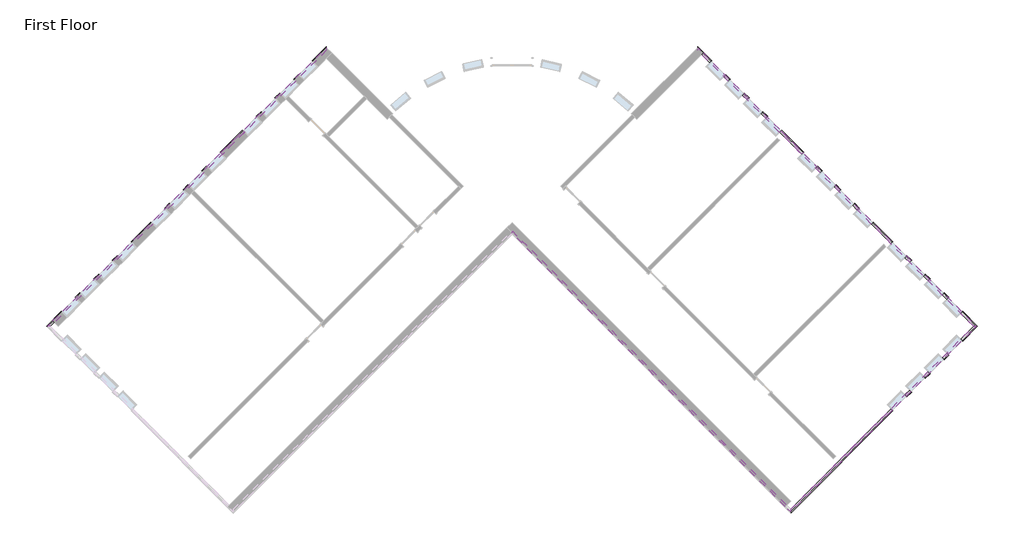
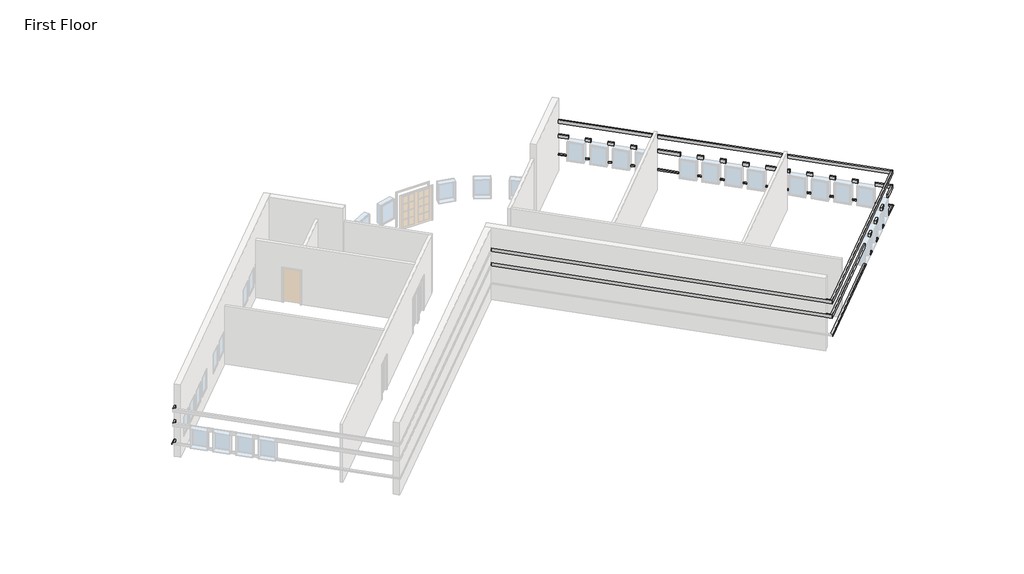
# One storey, part 3 of 3: 11 proxies.
"""IFC4 building model written with IfcOpenShell, lengths in millimetres."""

import ifcopenshell
import ifcopenshell.guid

model = None  # the IFC model being written
_history = None  # IfcOwnerHistory: only IFC2X3 demands one
_inside = {}  # id of a spatial element -> (the spatial element, [elements in it])
_under = {}  # id of a project, library or spatial element -> (it, [spatial elements below it])
_declared = {}  # id of a project -> (the project, [libraries it declares])
_typed = {}  # id of a type object -> (the type object, [elements of that type])
_made_of = {}  # id of a material, layer set ... -> (it, [elements and type objects made of it])


def new_model(schema):
    """Start an empty IFC model of exactly this schema.

    Asked for "IFC4X3", IfcOpenShell would pick the latest addendum, in which some entities
    have other attributes; the version numbers below select the first issue.
    IFC2X3 requires an IfcOwnerHistory on every rooted entity: one is made here for all.
    """
    global model, _history
    if schema == "IFC4X3":
        model = ifcopenshell.file(schema_version=(4, 3, 0, 0))
    else:
        model = ifcopenshell.file(schema=schema)
    _inside.clear()
    _under.clear()
    _declared.clear()
    _typed.clear()
    _made_of.clear()
    _history = None
    if model.schema == "IFC2X3":
        org = make("IfcOrganization", Name="unknown")
        user = make(
            "IfcPersonAndOrganization",
            ThePerson=make("IfcPerson", FamilyName="unknown"),
            TheOrganization=org,
        )
        app = make(
            "IfcApplication",
            ApplicationDeveloper=org,
            Version="unknown",
            ApplicationFullName="unknown",
            ApplicationIdentifier="unknown",
        )
        _history = make(
            "IfcOwnerHistory",
            OwningUser=user,
            OwningApplication=app,
            ChangeAction="ADDED",
            CreationDate=0,
        )
    return model


def make(cls, **values):
    """One entity of the class cls with the attributes given. An attribute that is None is left unset."""
    return model.create_entity(
        cls, **{name: value for name, value in values.items() if value is not None}
    )


def rooted(cls, **values):
    """An entity with a GlobalId (a new one), such as an element, a storey or a relation."""
    return make(cls, GlobalId=ifcopenshell.guid.new(), OwnerHistory=_history, **values)


def si_unit(unit_type, name, prefix=None):
    """IfcSIUnit, for example si_unit("LENGTHUNIT", "METRE", prefix="MILLI")."""
    return make("IfcSIUnit", UnitType=unit_type, Prefix=prefix, Name=name)


def assignment(units):
    """IfcUnitAssignment: the units of a project."""
    return None if units is None else make("IfcUnitAssignment", Units=units)


def point(xyz):
    """IfcCartesianPoint."""
    return None if xyz is None else make("IfcCartesianPoint", Coordinates=xyz)


def direction(xyz):
    """IfcDirection."""
    return None if xyz is None else make("IfcDirection", DirectionRatios=xyz)


def frame(location, z_axis=None, x_axis=None):
    """IfcAxis2Placement3D, a coordinate frame: its origin and axes. An axis left out is left unset."""
    return make(
        "IfcAxis2Placement3D",
        Location=point(location),
        Axis=direction(z_axis),
        RefDirection=direction(x_axis),
    )


def origin():
    """The frame at (0, 0, 0) with its axes left unset."""
    return frame((0.0, 0.0, 0.0))


def place(relative_to, where):
    """IfcLocalPlacement: puts the frame where relative to a parent placement (None: the world)."""
    return make(
        "IfcLocalPlacement", PlacementRelTo=relative_to, RelativePlacement=where
    )


def context(
    kind, dimensions, precision=None, world=None, true_north=None, identifier=None
):
    """IfcGeometricRepresentationContext, for example the 3D "Model" context."""
    return make(
        "IfcGeometricRepresentationContext",
        ContextIdentifier=identifier,
        ContextType=kind,
        CoordinateSpaceDimension=dimensions,
        Precision=precision,
        WorldCoordinateSystem=world,
        TrueNorth=true_north,
    )


def project(units=None, contexts=None):
    """IfcProject with its units and contexts."""
    return rooted(
        "IfcProject",
        Name="project",
        RepresentationContexts=contexts,
        UnitsInContext=assignment(units),
    )


def spatial(cls, under=None, at=None, **own):
    """A site, building, storey or space (cls), placed at a placement, below another one or the project."""
    s = rooted(cls, ObjectPlacement=at, **own)
    if under is not None:
        _under.setdefault(under.id(), (under, []))[1].append(s)
    return s


def faces_of(points, faces, orient=None, outer=None):
    """IfcFace entities. A face is a list of loops; a loop is a list of indices into points, from 0.

    orient and outer hold one flag for each loop. By default every Orientation is true, the
    first loop of a face is its IfcFaceOuterBound and the others are IfcFaceBound.
    """
    made = []
    for i, loops in enumerate(faces):
        bounds = []
        for j, loop in enumerate(loops):
            is_outer = j == 0 if outer is None else outer[i][j]
            bounds.append(
                make(
                    "IfcFaceOuterBound" if is_outer else "IfcFaceBound",
                    Bound=make("IfcPolyLoop", Polygon=[points[k] for k in loop]),
                    Orientation=True if orient is None else orient[i][j],
                )
            )
        made.append(make("IfcFace", Bounds=bounds))
    return made


def faceted_brep(points, faces, orient=None, outer=None, voids=None):
    """IfcFacetedBrep: a solid bounded by flat faces; with voids (closed shells), ...WithVoids."""
    shared = [point(p) for p in points]
    hull = make("IfcClosedShell", CfsFaces=faces_of(shared, faces, orient, outer))
    if voids is None:
        return make("IfcFacetedBrep", Outer=hull)
    return make(
        "IfcFacetedBrepWithVoids",
        Outer=hull,
        Voids=[
            make(cls, CfsFaces=faces_of(shared, fs, o, b)) for cls, fs, o, b in voids
        ],
    )


def shape(context_of_items, identifier, shape_type, items):
    """IfcShapeRepresentation: the items that make up one representation, for example the "Body"."""
    return make(
        "IfcShapeRepresentation",
        ContextOfItems=context_of_items,
        RepresentationIdentifier=identifier,
        RepresentationType=shape_type,
        Items=items,
    )


def made_of(thing, what):
    """Note that an element or type object is made of a material, layer set ...; save() writes the relation."""
    if what is not None:
        _made_of.setdefault(what.id(), (what, []))[1].append(thing)
    return thing


def element(
    cls,
    number,
    at=None,
    inside=None,
    cuts=None,
    type_object=None,
    material=None,
    context=None,
    identifier="Body",
    shape_type=None,
    held_by="IfcProductDefinitionShape",
    body=None,
    shapes=None,
    **own,
):
    """One element of the class cls, such as IfcWall. Its Tag is "e" and its number.

    at: its placement. inside: the storey or other place that contains it. cuts: it is an
    opening in that element (IfcRelVoidsElement). A single representation is given by context,
    identifier, shape_type and body (its items); several are given by shapes. held_by: the class
    of the entity that holds the representations. save() writes the other relations.
    """
    e = rooted(cls, Tag="e%d" % number, ObjectPlacement=at, **own)
    if body is not None:
        shapes = [shape(context, identifier, shape_type, body)]
    if shapes is not None:
        e.Representation = make(held_by, Representations=shapes)
    if inside is not None:
        _inside.setdefault(inside.id(), (inside, []))[1].append(e)
    if cuts is not None:
        rooted(
            "IfcRelVoidsElement", RelatingBuildingElement=cuts, RelatedOpeningElement=e
        )
    if type_object is not None:
        _typed.setdefault(type_object.id(), (type_object, []))[1].append(e)
    return made_of(e, material)


def aggregate(whole, parts):
    """IfcRelAggregates: a whole, such as a stair, and the parts it consists of."""
    return rooted("IfcRelAggregates", RelatingObject=whole, RelatedObjects=parts)


def save(model, path):
    """Write the relations noted so far, then the file.

    IfcRelAggregates (storeys below a building ...), IfcRelContainedInSpatialStructure (elements
    in a storey), IfcRelDefinesByType, IfcRelAssociatesMaterial and IfcRelDeclares: one each for
    every whole, place, type object, material and project.
    """
    for whole, parts in _under.values():
        aggregate(whole, parts)
    for where, things in _inside.values():
        rooted(
            "IfcRelContainedInSpatialStructure",
            RelatedElements=things,
            RelatingStructure=where,
        )
    for kind, things in _typed.values():
        rooted("IfcRelDefinesByType", RelatedObjects=things, RelatingType=kind)
    for what, things in _made_of.values():
        rooted("IfcRelAssociatesMaterial", RelatedObjects=things, RelatingMaterial=what)
    for by, libraries in _declared.values():
        rooted("IfcRelDeclares", RelatingContext=by, RelatedDefinitions=libraries)
    model.write(path)


model = new_model("IFC4")

# Units and contexts
model_context = context("Model", 3, world=origin())
ifc_project = project(units=[si_unit("LENGTHUNIT", "METRE", prefix="MILLI")], contexts=[model_context])

# Site, building, storey
site = spatial("IfcSite", under=ifc_project)
building = spatial("IfcBuilding", under=site)
storey = spatial("IfcBuildingStorey", under=building, Name="First Floor", Elevation=0.0)

# Proxies
placement = place(None, origin())
element("IfcBuildingElementProxy", 1, Name="Wall Sweeps", at=placement, inside=storey, context=model_context, shape_type="Brep", body=[
    faceted_brep([(5753.0175119, 11443.3655905, 1085.85), (5753.0175119, 11573.5793042, 1085.85), (5753.0175119, 11622.9707129, 1041.4), (5753.0175119, 11622.9707129, 1016.0), (5753.0175119, 11443.3655905, 1016.0), (6317.415551, 10878.9675514, 1085.85), (6317.415551, 10878.9675514, 1016.0), (6382.5224079, 10944.0744083, 1016.0), (6407.2181122, 10968.7701126, 1016.0), (6407.2181122, 10968.7701126, 1041.4), (6382.5224079, 10944.0744083, 1085.85)], [[[0, 1, 2, 3, 4]], [[5, 6, 7, 8, 9, 10]], [[1, 0, 5, 10]], [[2, 1, 10, 9]], [[3, 2, 9, 8]], [[4, 3, 8, 7, 6]], [[0, 4, 6, 5]]]),
    faceted_brep([(6963.9939917, 10232.3891107, 1085.85), (7029.1008486, 10297.4959676, 1085.85), (7053.7965529, 10322.1916719, 1041.4), (7053.7965529, 10322.1916719, 1016.0), (7029.1008486, 10297.4959676, 1016.0), (6963.9939917, 10232.3891107, 1016.0), (7179.5201386, 10016.8629638, 1085.85), (7179.5201386, 10016.8629638, 1016.0), (7244.6269955, 10081.9698207, 1016.0), (7269.3226998, 10106.665525, 1016.0), (7269.3226998, 10106.665525, 1041.4), (7244.6269955, 10081.9698207, 1085.85)], [[[0, 1, 2, 3, 4, 5]], [[6, 7, 8, 9, 10, 11]], [[1, 0, 6, 11]], [[2, 1, 11, 10]], [[3, 2, 10, 9]], [[5, 4, 3, 9, 8, 7]], [[0, 5, 7, 6]]]),
    faceted_brep([(7826.0985793, 9370.2845231, 1085.85), (7891.2054362, 9435.39138, 1085.85), (7915.9011405, 9460.0870843, 1041.4), (7915.9011405, 9460.0870843, 1016.0), (7891.2054362, 9435.39138, 1016.0), (7826.0985793, 9370.2845231, 1016.0), (8041.6247262, 9154.7583762, 1085.85), (8041.6247262, 9154.7583762, 1016.0), (8106.7315831, 9219.8652331, 1016.0), (8131.4272874, 9244.5609374, 1016.0), (8131.4272874, 9244.5609374, 1041.4), (8106.7315831, 9219.8652331, 1085.85)], [[[0, 1, 2, 3, 4, 5]], [[6, 7, 8, 9, 10, 11]], [[1, 0, 6, 11]], [[2, 1, 11, 10]], [[3, 2, 10, 9]], [[5, 4, 3, 9, 8, 7]], [[0, 5, 7, 6]]]),
    faceted_brep([(8688.2031669, 8508.1799355, 1085.85), (8753.3100238, 8573.2867923, 1085.85), (8778.0057282, 8597.9824967, 1041.4), (8778.0057282, 8597.9824967, 1016.0), (8753.3100238, 8573.2867923, 1016.0), (8688.2031669, 8508.1799355, 1016.0), (8903.7293139, 8292.6537886, 1085.85), (8903.7293139, 8292.6537886, 1016.0), (8968.8361707, 8357.7606454, 1016.0), (8993.5318751, 8382.4563498, 1016.0), (8993.5318751, 8382.4563498, 1041.4), (8968.8361707, 8357.7606454, 1085.85)], [[[0, 1, 2, 3, 4, 5]], [[6, 7, 8, 9, 10, 11]], [[1, 0, 6, 11]], [[2, 1, 11, 10]], [[3, 2, 10, 9]], [[5, 4, 3, 9, 8, 7]], [[0, 5, 7, 6]]]),
    faceted_brep([(9550.3077546, 7646.0753478, 1085.85), (9615.4146114, 7711.1822047, 1085.85), (9640.1103158, 7735.877909, 1041.4), (9640.1103158, 7735.877909, 1016.0), (9615.4146114, 7711.1822047, 1016.0), (9550.3077546, 7646.0753478, 1016.0), (10574.7639411, 6621.6191613, 1085.85), (10574.7639411, 6621.6191613, 1016.0), (10639.870798, 6686.7260182, 1016.0), (10664.5665023, 6711.4217225, 1016.0), (10664.5665023, 6711.4217225, 1041.4), (10639.870798, 6686.7260182, 1085.85)], [[[0, 1, 2, 3, 4, 5]], [[6, 7, 8, 9, 10, 11]], [[1, 0, 6, 11]], [[2, 1, 11, 10]], [[3, 2, 10, 9]], [[5, 4, 3, 9, 8, 7]], [[0, 5, 7, 6]]]),
    faceted_brep([(11221.3423818, 5975.0407206, 1085.85), (11286.4492387, 6040.1475775, 1085.85), (11311.144943, 6064.8432818, 1041.4), (11311.144943, 6064.8432818, 1016.0), (11286.4492387, 6040.1475775, 1016.0), (11221.3423818, 5975.0407206, 1016.0), (11436.8685287, 5759.5145737, 1085.85), (11436.8685287, 5759.5145737, 1016.0), (11501.9753856, 5824.6214306, 1016.0), (11526.6710899, 5849.3171349, 1016.0), (11526.6710899, 5849.3171349, 1041.4), (11501.9753856, 5824.6214306, 1085.85)], [[[0, 1, 2, 3, 4, 5]], [[6, 7, 8, 9, 10, 11]], [[1, 0, 6, 11]], [[2, 1, 11, 10]], [[3, 2, 10, 9]], [[5, 4, 3, 9, 8, 7]], [[0, 5, 7, 6]]]),
    faceted_brep([(12083.4469694, 5112.936133, 1085.85), (12148.5538263, 5178.0429899, 1085.85), (12173.2495306, 5202.7386942, 1041.4), (12173.2495306, 5202.7386942, 1016.0), (12148.5538263, 5178.0429899, 1016.0), (12083.4469694, 5112.936133, 1016.0), (12298.9731163, 4897.4099861, 1085.85), (12298.9731163, 4897.4099861, 1016.0), (12364.0799732, 4962.516843, 1016.0), (12388.7756775, 4987.2125473, 1016.0), (12388.7756775, 4987.2125473, 1041.4), (12364.0799732, 4962.516843, 1085.85)], [[[0, 1, 2, 3, 4, 5]], [[6, 7, 8, 9, 10, 11]], [[1, 0, 6, 11]], [[2, 1, 11, 10]], [[3, 2, 10, 9]], [[5, 4, 3, 9, 8, 7]], [[0, 5, 7, 6]]]),
    faceted_brep([(12945.551557, 4250.8315454, 1085.85), (13010.6584139, 4315.9384023, 1085.85), (13035.3541182, 4340.6341066, 1041.4), (13035.3541182, 4340.6341066, 1016.0), (13010.6584139, 4315.9384023, 1016.0), (12945.551557, 4250.8315454, 1016.0), (13161.0777039, 4035.3053985, 1085.85), (13161.0777039, 4035.3053985, 1016.0), (13226.1845608, 4100.4122553, 1016.0), (13250.8802652, 4125.1079597, 1016.0), (13250.8802652, 4125.1079597, 1041.4), (13226.1845608, 4100.4122553, 1085.85)], [[[0, 1, 2, 3, 4, 5]], [[6, 7, 8, 9, 10, 11]], [[1, 0, 6, 11]], [[2, 1, 11, 10]], [[3, 2, 10, 9]], [[5, 4, 3, 9, 8, 7]], [[0, 5, 7, 6]]]),
    faceted_brep([(13807.6561447, 3388.7269578, 1085.85), (13872.7630015, 3453.8338146, 1085.85), (13897.4587059, 3478.529519, 1041.4), (13897.4587059, 3478.529519, 1016.0), (13872.7630015, 3453.8338146, 1016.0), (13807.6561447, 3388.7269578, 1016.0), (14723.1708449, 2473.2122576, 1085.85), (14723.1708449, 2473.2122576, 1016.0), (14788.2777017, 2538.3191144, 1016.0), (14812.9734061, 2563.0148188, 1016.0), (14812.9734061, 2563.0148188, 1041.4), (14788.2777017, 2538.3191144, 1085.85)], [[[0, 1, 2, 3, 4, 5]], [[6, 7, 8, 9, 10, 11]], [[1, 0, 6, 11]], [[2, 1, 11, 10]], [[3, 2, 10, 9]], [[5, 4, 3, 9, 8, 7]], [[0, 5, 7, 6]]]),
    faceted_brep([(15369.7492856, 1826.6338168, 1085.85), (15434.8561424, 1891.7406737, 1085.85), (15459.5518468, 1916.4363781, 1041.4), (15459.5518468, 1916.4363781, 1016.0), (15434.8561424, 1891.7406737, 1016.0), (15369.7492856, 1826.6338168, 1016.0), (15585.2754325, 1611.1076699, 1085.85), (15585.2754325, 1611.1076699, 1016.0), (15650.3822894, 1676.2145268, 1016.0), (15675.0779937, 1700.9102311, 1016.0), (15675.0779937, 1700.9102311, 1041.4), (15650.3822894, 1676.2145268, 1085.85)], [[[0, 1, 2, 3, 4, 5]], [[6, 7, 8, 9, 10, 11]], [[1, 0, 6, 11]], [[2, 1, 11, 10]], [[3, 2, 10, 9]], [[5, 4, 3, 9, 8, 7]], [[0, 5, 7, 6]]]),
    faceted_brep([(16231.8538732, 964.5292292, 1085.85), (16296.9607301, 1029.6360861, 1085.85), (16321.6564344, 1054.3317904, 1041.4), (16321.6564344, 1054.3317904, 1016.0), (16296.9607301, 1029.6360861, 1016.0), (16231.8538732, 964.5292292, 1016.0), (16447.3800201, 749.0030823, 1085.85), (16447.3800201, 749.0030823, 1016.0), (16512.486877, 814.1099392, 1016.0), (16537.1825813, 838.8056435, 1016.0), (16537.1825813, 838.8056435, 1041.4), (16512.486877, 814.1099392, 1085.85)], [[[0, 1, 2, 3, 4, 5]], [[6, 7, 8, 9, 10, 11]], [[1, 0, 6, 11]], [[2, 1, 11, 10]], [[3, 2, 10, 9]], [[5, 4, 3, 9, 8, 7]], [[0, 5, 7, 6]]]),
    faceted_brep([(17093.9584608, 102.4246416, 1085.85), (17159.0653177, 167.5314985, 1085.85), (17183.761022, 192.2272028, 1041.4), (17183.761022, 192.2272028, 1016.0), (17159.0653177, 167.5314985, 1016.0), (17093.9584608, 102.4246416, 1016.0), (17309.4846077, -113.1015053, 1085.85), (17309.4846077, -113.1015053, 1016.0), (17374.5914646, -47.9946484, 1016.0), (17399.2871689, -23.2989441, 1016.0), (17399.2871689, -23.2989441, 1041.4), (17374.5914646, -47.9946484, 1085.85)], [[[0, 1, 2, 3, 4, 5]], [[6, 7, 8, 9, 10, 11]], [[1, 0, 6, 11]], [[2, 1, 11, 10]], [[3, 2, 10, 9]], [[5, 4, 3, 9, 8, 7]], [[0, 5, 7, 6]]]),
    faceted_brep([(17956.0630484, -759.679946, 1085.85), (18021.1699053, -694.5730891, 1085.85), (18045.8656096, -669.8773848, 1041.4), (18045.8656096, -669.8773848, 1016.0), (18021.1699053, -694.5730891, 1016.0), (17956.0630484, -759.679946, 1016.0), (18554.3726125, -1357.9895101, 1085.85), (18554.3726125, -1357.9895101, 1016.0), (18733.9777349, -1357.9895101, 1016.0), (18733.9777349, -1357.9895101, 1041.4), (18684.5863263, -1357.9895101, 1085.85)], [[[0, 1, 2, 3, 4, 5]], [[6, 7, 8, 9, 10]], [[1, 0, 6, 10]], [[2, 1, 10, 9]], [[3, 2, 9, 8]], [[5, 4, 3, 8, 7]], [[0, 5, 7, 6]]]),
])
element("IfcBuildingElementProxy", 2, Name="Wall Sweeps", at=placement, inside=storey, context=model_context, shape_type="Brep", body=[
    faceted_brep([(5753.0175119, 11573.5793042, 2336.8), (5753.0175119, 11573.5793042, 2133.6), (5753.0175119, 11443.3655905, 2133.6), (5753.0175119, 11443.3655905, 2336.8), (6382.5224079, 10944.0744083, 2336.8), (6317.415551, 10878.9675514, 2336.8), (6317.415551, 10878.9675514, 2133.6), (6382.5224079, 10944.0744083, 2133.6), (6002.2196193, 11324.3771969, 2336.8), (6002.2196193, 11324.3771969, 2133.6)], [[[0, 1, 2, 3]], [[4, 5, 6, 7]], [[1, 0, 8, 4, 7, 9]], [[2, 1, 9, 7, 6]], [[3, 2, 6, 5]], [[0, 3, 5, 4, 8]]]),
    faceted_brep([(7029.1008486, 10297.4959676, 2336.8), (7029.1008486, 10297.4959676, 2133.6), (6963.9939917, 10232.3891107, 2133.6), (6963.9939917, 10232.3891107, 2336.8), (7244.6269955, 10081.9698207, 2336.8), (7179.5201386, 10016.8629638, 2336.8), (7179.5201386, 10016.8629638, 2133.6), (7244.6269955, 10081.9698207, 2133.6)], [[[0, 1, 2, 3]], [[4, 5, 6, 7]], [[1, 0, 4, 7]], [[2, 1, 7, 6]], [[3, 2, 6, 5]], [[0, 3, 5, 4]]]),
    faceted_brep([(7891.2054362, 9435.39138, 2336.8), (7891.2054362, 9435.39138, 2133.6), (7826.0985793, 9370.2845231, 2133.6), (7826.0985793, 9370.2845231, 2336.8), (8106.7315831, 9219.8652331, 2336.8), (8041.6247262, 9154.7583762, 2336.8), (8041.6247262, 9154.7583762, 2133.6), (8106.7315831, 9219.8652331, 2133.6)], [[[0, 1, 2, 3]], [[4, 5, 6, 7]], [[1, 0, 4, 7]], [[2, 1, 7, 6]], [[3, 2, 6, 5]], [[0, 3, 5, 4]]]),
    faceted_brep([(8753.3100238, 8573.2867923, 2336.8), (8753.3100238, 8573.2867923, 2133.6), (8688.2031669, 8508.1799355, 2133.6), (8688.2031669, 8508.1799355, 2336.8), (8968.8361707, 8357.7606454, 2336.8), (8903.7293139, 8292.6537886, 2336.8), (8903.7293139, 8292.6537886, 2133.6), (8968.8361707, 8357.7606454, 2133.6)], [[[0, 1, 2, 3]], [[4, 5, 6, 7]], [[1, 0, 4, 7]], [[2, 1, 7, 6]], [[3, 2, 6, 5]], [[0, 3, 5, 4]]]),
    faceted_brep([(9615.4146114, 7711.1822047, 2336.8), (9615.4146114, 7711.1822047, 2133.6), (9550.3077546, 7646.0753478, 2133.6), (9550.3077546, 7646.0753478, 2336.8), (10639.870798, 6686.7260182, 2336.8), (10574.7639411, 6621.6191613, 2336.8), (10574.7639411, 6621.6191613, 2133.6), (10639.870798, 6686.7260182, 2133.6)], [[[0, 1, 2, 3]], [[4, 5, 6, 7]], [[1, 0, 4, 7]], [[2, 1, 7, 6]], [[3, 2, 6, 5]], [[0, 3, 5, 4]]]),
    faceted_brep([(11286.4492387, 6040.1475775, 2336.8), (11286.4492387, 6040.1475775, 2133.6), (11221.3423818, 5975.0407206, 2133.6), (11221.3423818, 5975.0407206, 2336.8), (11501.9753856, 5824.6214306, 2336.8), (11436.8685287, 5759.5145737, 2336.8), (11436.8685287, 5759.5145737, 2133.6), (11501.9753856, 5824.6214306, 2133.6)], [[[0, 1, 2, 3]], [[4, 5, 6, 7]], [[1, 0, 4, 7]], [[2, 1, 7, 6]], [[3, 2, 6, 5]], [[0, 3, 5, 4]]]),
    faceted_brep([(12148.5538263, 5178.0429899, 2336.8), (12148.5538263, 5178.0429899, 2133.6), (12083.4469694, 5112.936133, 2133.6), (12083.4469694, 5112.936133, 2336.8), (12364.0799732, 4962.516843, 2336.8), (12298.9731163, 4897.4099861, 2336.8), (12298.9731163, 4897.4099861, 2133.6), (12364.0799732, 4962.516843, 2133.6)], [[[0, 1, 2, 3]], [[4, 5, 6, 7]], [[1, 0, 4, 7]], [[2, 1, 7, 6]], [[3, 2, 6, 5]], [[0, 3, 5, 4]]]),
    faceted_brep([(13010.6584139, 4315.9384023, 2336.8), (13010.6584139, 4315.9384023, 2133.6), (12945.551557, 4250.8315454, 2133.6), (12945.551557, 4250.8315454, 2336.8), (13226.1845608, 4100.4122553, 2336.8), (13161.0777039, 4035.3053985, 2336.8), (13161.0777039, 4035.3053985, 2133.6), (13226.1845608, 4100.4122553, 2133.6)], [[[0, 1, 2, 3]], [[4, 5, 6, 7]], [[1, 0, 4, 7]], [[2, 1, 7, 6]], [[3, 2, 6, 5]], [[0, 3, 5, 4]]]),
    faceted_brep([(13872.7630015, 3453.8338146, 2336.8), (13872.7630015, 3453.8338146, 2133.6), (13807.6561447, 3388.7269578, 2133.6), (13807.6561447, 3388.7269578, 2336.8), (14788.2777017, 2538.3191144, 2336.8), (14723.1708449, 2473.2122576, 2336.8), (14723.1708449, 2473.2122576, 2133.6), (14788.2777017, 2538.3191144, 2133.6)], [[[0, 1, 2, 3]], [[4, 5, 6, 7]], [[1, 0, 4, 7]], [[2, 1, 7, 6]], [[3, 2, 6, 5]], [[0, 3, 5, 4]]]),
    faceted_brep([(15434.8561424, 1891.7406737, 2336.8), (15434.8561424, 1891.7406737, 2133.6), (15369.7492856, 1826.6338168, 2133.6), (15369.7492856, 1826.6338168, 2336.8), (15650.3822894, 1676.2145268, 2336.8), (15585.2754325, 1611.1076699, 2336.8), (15585.2754325, 1611.1076699, 2133.6), (15650.3822894, 1676.2145268, 2133.6)], [[[0, 1, 2, 3]], [[4, 5, 6, 7]], [[1, 0, 4, 7]], [[2, 1, 7, 6]], [[3, 2, 6, 5]], [[0, 3, 5, 4]]]),
    faceted_brep([(16296.9607301, 1029.6360861, 2336.8), (16296.9607301, 1029.6360861, 2133.6), (16231.8538732, 964.5292292, 2133.6), (16231.8538732, 964.5292292, 2336.8), (16512.486877, 814.1099392, 2336.8), (16447.3800201, 749.0030823, 2336.8), (16447.3800201, 749.0030823, 2133.6), (16512.486877, 814.1099392, 2133.6)], [[[0, 1, 2, 3]], [[4, 5, 6, 7]], [[1, 0, 4, 7]], [[2, 1, 7, 6]], [[3, 2, 6, 5]], [[0, 3, 5, 4]]]),
    faceted_brep([(17159.0653177, 167.5314985, 2336.8), (17159.0653177, 167.5314985, 2133.6), (17093.9584608, 102.4246416, 2133.6), (17093.9584608, 102.4246416, 2336.8), (17374.5914646, -47.9946484, 2336.8), (17309.4846077, -113.1015053, 2336.8), (17309.4846077, -113.1015053, 2133.6), (17374.5914646, -47.9946484, 2133.6)], [[[0, 1, 2, 3]], [[4, 5, 6, 7]], [[1, 0, 4, 7]], [[2, 1, 7, 6]], [[3, 2, 6, 5]], [[0, 3, 5, 4]]]),
    faceted_brep([(18021.1699053, -694.5730891, 2336.8), (18021.1699053, -694.5730891, 2133.6), (17956.0630484, -759.679946, 2133.6), (17956.0630484, -759.679946, 2336.8), (18684.5863263, -1357.9895101, 2336.8), (18554.3726125, -1357.9895101, 2336.8), (18554.3726125, -1357.9895101, 2133.6), (18684.5863263, -1357.9895101, 2133.6)], [[[0, 1, 2, 3]], [[4, 5, 6, 7]], [[1, 0, 4, 7]], [[2, 1, 7, 6]], [[3, 2, 6, 5]], [[0, 3, 5, 4]]]),
])
element("IfcBuildingElementProxy", 3, Name="Wall Sweeps", at=placement, inside=storey, context=model_context, shape_type="Brep", body=[
    faceted_brep([(5753.0175119, 11573.5793042, 3251.2), (5753.0175119, 11573.5793042, 3048.0), (5753.0175119, 11443.3655905, 3048.0), (5753.0175119, 11443.3655905, 3251.2), (18684.5863263, -1357.9895101, 3251.2), (18554.3726125, -1357.9895101, 3251.2), (18554.3726125, -1357.9895101, 3048.0), (18684.5863263, -1357.9895101, 3048.0), (6002.2196193, 11324.3771969, 3251.2), (6002.2196193, 11324.3771969, 3048.0)], [[[0, 1, 2, 3]], [[4, 5, 6, 7]], [[1, 0, 8, 4, 7, 9]], [[2, 1, 9, 7, 6]], [[3, 2, 6, 5]], [[0, 3, 5, 4, 8]]]),
])
element("IfcBuildingElementProxy", 4, Name="Wall Sweeps", at=placement, inside=storey, context=model_context, shape_type="Brep", body=[
    faceted_brep([(18554.3726125, -1357.9895101, 1085.85), (18684.5863263, -1357.9895101, 1085.85), (18733.9777349, -1357.9895101, 1041.4), (18733.9777349, -1357.9895101, 1016.0), (18554.3726125, -1357.9895101, 1016.0), (17956.0630484, -1956.2990742, 1085.85), (17956.0630484, -1956.2990742, 1016.0), (18021.1699053, -2021.405931, 1016.0), (18045.8656096, -2046.1016354, 1016.0), (18045.8656096, -2046.1016354, 1041.4), (18021.1699053, -2021.405931, 1085.85)], [[[0, 1, 2, 3, 4]], [[5, 6, 7, 8, 9, 10]], [[1, 0, 5, 10]], [[2, 1, 10, 9]], [[3, 2, 9, 8]], [[4, 3, 8, 7, 6]], [[0, 4, 6, 5]]]),
    faceted_brep([(17309.4846077, -2602.8775149, 1085.85), (17374.5914646, -2667.9843718, 1085.85), (17399.2871689, -2692.6800761, 1041.4), (17399.2871689, -2692.6800761, 1016.0), (17374.5914646, -2667.9843718, 1016.0), (17309.4846077, -2602.8775149, 1016.0), (17093.9584608, -2818.4036618, 1085.85), (17093.9584608, -2818.4036618, 1016.0), (17159.0653177, -2883.5105187, 1016.0), (17183.761022, -2908.206223, 1016.0), (17183.761022, -2908.206223, 1041.4), (17159.0653177, -2883.5105187, 1085.85)], [[[0, 1, 2, 3, 4, 5]], [[6, 7, 8, 9, 10, 11]], [[1, 0, 6, 11]], [[2, 1, 11, 10]], [[3, 2, 10, 9]], [[5, 4, 3, 9, 8, 7]], [[0, 5, 7, 6]]]),
    faceted_brep([(16447.3800201, -3464.9821025, 1085.85), (16512.486877, -3530.0889594, 1085.85), (16537.1825813, -3554.7846637, 1041.4), (16537.1825813, -3554.7846637, 1016.0), (16512.486877, -3530.0889594, 1016.0), (16447.3800201, -3464.9821025, 1016.0), (16231.8538732, -3680.5082494, 1085.85), (16231.8538732, -3680.5082494, 1016.0), (16296.9607301, -3745.6151063, 1016.0), (16321.6564344, -3770.3108106, 1016.0), (16321.6564344, -3770.3108106, 1041.4), (16296.9607301, -3745.6151063, 1085.85)], [[[0, 1, 2, 3, 4, 5]], [[6, 7, 8, 9, 10, 11]], [[1, 0, 6, 11]], [[2, 1, 11, 10]], [[3, 2, 10, 9]], [[5, 4, 3, 9, 8, 7]], [[0, 5, 7, 6]]]),
    faceted_brep([(15585.2754325, -4327.0866901, 1085.85), (15650.3822894, -4392.193547, 1085.85), (15675.0779937, -4416.8892513, 1041.4), (15675.0779937, -4416.8892513, 1016.0), (15650.3822894, -4392.193547, 1016.0), (15585.2754325, -4327.0866901, 1016.0), (15369.7492856, -4542.612837, 1085.85), (15369.7492856, -4542.612837, 1016.0), (15434.8561424, -4607.7196939, 1016.0), (15459.5518468, -4632.4153982, 1016.0), (15459.5518468, -4632.4153982, 1041.4), (15434.8561424, -4607.7196939, 1085.85)], [[[0, 1, 2, 3, 4, 5]], [[6, 7, 8, 9, 10, 11]], [[1, 0, 6, 11]], [[2, 1, 11, 10]], [[3, 2, 10, 9]], [[5, 4, 3, 9, 8, 7]], [[0, 5, 7, 6]]]),
    faceted_brep([(14723.1708449, -5189.1912777, 1085.85), (14788.2777017, -5254.2981346, 1085.85), (14812.9734061, -5278.993839, 1041.4), (14812.9734061, -5278.993839, 1016.0), (14788.2777017, -5254.2981346, 1016.0), (14723.1708449, -5189.1912777, 1016.0), (10063.54045, -9848.8216726, 1085.85), (10063.54045, -9848.8216726, 1016.0), (10063.54045, -10028.426795, 1016.0), (10063.54045, -10028.426795, 1041.4), (10063.54045, -9979.0353863, 1085.85)], [[[0, 1, 2, 3, 4, 5]], [[6, 7, 8, 9, 10]], [[1, 0, 6, 10]], [[2, 1, 10, 9]], [[3, 2, 9, 8]], [[5, 4, 3, 8, 7]], [[0, 5, 7, 6]]]),
])
element("IfcBuildingElementProxy", 5, Name="Wall Sweeps", at=placement, inside=storey, context=model_context, shape_type="Brep", body=[
    faceted_brep([(18684.5863263, -1357.9895101, 2336.8), (18684.5863263, -1357.9895101, 2133.6), (18554.3726125, -1357.9895101, 2133.6), (18554.3726125, -1357.9895101, 2336.8), (18021.1699053, -2021.405931, 2336.8), (17956.0630484, -1956.2990742, 2336.8), (17956.0630484, -1956.2990742, 2133.6), (18021.1699053, -2021.405931, 2133.6), (18435.3842189, -1607.1916175, 2336.8), (18435.3842189, -1607.1916175, 2133.6)], [[[0, 1, 2, 3]], [[4, 5, 6, 7]], [[1, 0, 8, 4, 7, 9]], [[2, 1, 9, 7, 6]], [[3, 2, 6, 5]], [[0, 3, 5, 4, 8]]]),
    faceted_brep([(17374.5914646, -2667.9843718, 2336.8), (17374.5914646, -2667.9843718, 2133.6), (17309.4846077, -2602.8775149, 2133.6), (17309.4846077, -2602.8775149, 2336.8), (17159.0653177, -2883.5105187, 2336.8), (17093.9584608, -2818.4036618, 2336.8), (17093.9584608, -2818.4036618, 2133.6), (17159.0653177, -2883.5105187, 2133.6)], [[[0, 1, 2, 3]], [[4, 5, 6, 7]], [[1, 0, 4, 7]], [[2, 1, 7, 6]], [[3, 2, 6, 5]], [[0, 3, 5, 4]]]),
    faceted_brep([(16512.486877, -3530.0889594, 2336.8), (16512.486877, -3530.0889594, 2133.6), (16447.3800201, -3464.9821025, 2133.6), (16447.3800201, -3464.9821025, 2336.8), (16296.9607301, -3745.6151063, 2336.8), (16231.8538732, -3680.5082494, 2336.8), (16231.8538732, -3680.5082494, 2133.6), (16296.9607301, -3745.6151063, 2133.6)], [[[0, 1, 2, 3]], [[4, 5, 6, 7]], [[1, 0, 4, 7]], [[2, 1, 7, 6]], [[3, 2, 6, 5]], [[0, 3, 5, 4]]]),
    faceted_brep([(15650.3822894, -4392.193547, 2336.8), (15650.3822894, -4392.193547, 2133.6), (15585.2754325, -4327.0866901, 2133.6), (15585.2754325, -4327.0866901, 2336.8), (15434.8561424, -4607.7196939, 2336.8), (15369.7492856, -4542.612837, 2336.8), (15369.7492856, -4542.612837, 2133.6), (15434.8561424, -4607.7196939, 2133.6)], [[[0, 1, 2, 3]], [[4, 5, 6, 7]], [[1, 0, 4, 7]], [[2, 1, 7, 6]], [[3, 2, 6, 5]], [[0, 3, 5, 4]]]),
    faceted_brep([(14788.2777017, -5254.2981346, 2336.8), (14788.2777017, -5254.2981346, 2133.6), (14723.1708449, -5189.1912777, 2133.6), (14723.1708449, -5189.1912777, 2336.8), (10063.54045, -9979.0353863, 2336.8), (10063.54045, -9848.8216726, 2336.8), (10063.54045, -9848.8216726, 2133.6), (10063.54045, -9979.0353863, 2133.6)], [[[0, 1, 2, 3]], [[4, 5, 6, 7]], [[1, 0, 4, 7]], [[2, 1, 7, 6]], [[3, 2, 6, 5]], [[0, 3, 5, 4]]]),
])
element("IfcBuildingElementProxy", 6, Name="Wall Sweeps", at=placement, inside=storey, context=model_context, shape_type="Brep", body=[
    faceted_brep([(18684.5863263, -1357.9895101, 3251.2), (18684.5863263, -1357.9895101, 3048.0), (18554.3726125, -1357.9895101, 3048.0), (18554.3726125, -1357.9895101, 3251.2), (10063.54045, -9979.0353863, 3251.2), (10063.54045, -9848.8216726, 3251.2), (10063.54045, -9848.8216726, 3048.0), (10063.54045, -9979.0353863, 3048.0), (18435.3842189, -1607.1916175, 3251.2), (18435.3842189, -1607.1916175, 3048.0)], [[[0, 1, 2, 3]], [[4, 5, 6, 7]], [[1, 0, 8, 4, 7, 9]], [[2, 1, 9, 7, 6]], [[3, 2, 6, 5]], [[0, 3, 5, 4, 8]]]),
])
element("IfcBuildingElementProxy", 7, Name="Wall Sweeps", at=placement, inside=storey, context=model_context, shape_type="Brep", body=[
    faceted_brep([(10063.54045, -9979.0353863, 2336.8), (10063.54045, -9979.0353863, 2133.6), (10063.54045, -9848.8216726, 2133.6), (10063.54045, -9848.8216726, 2336.8), (-2868.0283643, 2952.533428, 2336.8), (-2868.0283643, 3082.7471418, 2336.8), (-2868.0283643, 3082.7471418, 2133.6), (-2868.0283643, 2952.533428, 2133.6), (9814.3383427, -9729.833279, 2336.8), (9814.3383427, -9729.833279, 2133.6)], [[[0, 1, 2, 3]], [[4, 5, 6, 7]], [[1, 0, 8, 4, 7, 9]], [[2, 1, 9, 7, 6]], [[3, 2, 6, 5]], [[0, 3, 5, 4, 8]]]),
])
element("IfcBuildingElementProxy", 8, Name="Wall Sweeps", at=placement, inside=storey, context=model_context, shape_type="Brep", body=[
    faceted_brep([(10063.54045, -9979.0353863, 3251.2), (10063.54045, -9979.0353863, 3048.0), (10063.54045, -9848.8216726, 3048.0), (10063.54045, -9848.8216726, 3251.2), (-2868.0283643, 2952.533428, 3251.2), (-2868.0283643, 3082.7471418, 3251.2), (-2868.0283643, 3082.7471418, 3048.0), (-2868.0283643, 2952.533428, 3048.0), (9814.3383427, -9729.833279, 3251.2), (9814.3383427, -9729.833279, 3048.0)], [[[0, 1, 2, 3]], [[4, 5, 6, 7]], [[1, 0, 8, 4, 7, 9]], [[2, 1, 9, 7, 6]], [[3, 2, 6, 5]], [[0, 3, 5, 4, 8]]]),
])
element("IfcBuildingElementProxy", 9, Name="Wall Sweeps", at=placement, inside=storey, context=model_context, shape_type="Brep", body=[
    faceted_brep([(-24290.4293411, -1357.9895101, 1085.85), (-24420.6430549, -1357.9895101, 1085.85), (-24470.0344635, -1357.9895101, 1041.4), (-24470.0344635, -1357.9895101, 1016.0), (-24290.4293411, -1357.9895101, 1016.0), (-23692.119777, -759.679946, 1085.85), (-23692.119777, -759.679946, 1016.0), (-23757.2266339, -694.5730891, 1016.0), (-23781.9223383, -669.8773848, 1016.0), (-23781.9223383, -669.8773848, 1041.4), (-23757.2266339, -694.5730891, 1085.85)], [[[0, 1, 2, 3, 4]], [[5, 6, 7, 8, 9, 10]], [[1, 0, 5, 10]], [[2, 1, 10, 9]], [[3, 2, 9, 8]], [[4, 3, 8, 7, 6]], [[0, 4, 6, 5]]]),
    faceted_brep([(-23045.5413363, -113.1015053, 1085.85), (-23110.6481932, -47.9946484, 1085.85), (-23135.3438975, -23.2989441, 1041.4), (-23135.3438975, -23.2989441, 1016.0), (-23110.6481932, -47.9946484, 1016.0), (-23045.5413363, -113.1015053, 1016.0), (-22830.0151894, 102.4246416, 1085.85), (-22830.0151894, 102.4246416, 1016.0), (-22895.1220463, 167.5314985, 1016.0), (-22919.8177506, 192.2272028, 1016.0), (-22919.8177506, 192.2272028, 1041.4), (-22895.1220463, 167.5314985, 1085.85)], [[[0, 1, 2, 3, 4, 5]], [[6, 7, 8, 9, 10, 11]], [[1, 0, 6, 11]], [[2, 1, 11, 10]], [[3, 2, 10, 9]], [[5, 4, 3, 9, 8, 7]], [[0, 5, 7, 6]]]),
    faceted_brep([(-22183.4367487, 749.0030823, 1085.85), (-22248.5436056, 814.1099392, 1085.85), (-22273.2393099, 838.8056435, 1041.4), (-22273.2393099, 838.8056435, 1016.0), (-22248.5436056, 814.1099392, 1016.0), (-22183.4367487, 749.0030823, 1016.0), (-21967.9106018, 964.5292292, 1085.85), (-21967.9106018, 964.5292292, 1016.0), (-22033.0174587, 1029.6360861, 1016.0), (-22057.713163, 1054.3317904, 1016.0), (-22057.713163, 1054.3317904, 1041.4), (-22033.0174587, 1029.6360861, 1085.85)], [[[0, 1, 2, 3, 4, 5]], [[6, 7, 8, 9, 10, 11]], [[1, 0, 6, 11]], [[2, 1, 11, 10]], [[3, 2, 10, 9]], [[5, 4, 3, 9, 8, 7]], [[0, 5, 7, 6]]]),
    faceted_brep([(-21321.3321611, 1611.1076699, 1085.85), (-21386.439018, 1676.2145268, 1085.85), (-21411.1347223, 1700.9102311, 1041.4), (-21411.1347223, 1700.9102311, 1016.0), (-21386.439018, 1676.2145268, 1016.0), (-21321.3321611, 1611.1076699, 1016.0), (-21105.8060142, 1826.6338168, 1085.85), (-21105.8060142, 1826.6338168, 1016.0), (-21170.9128711, 1891.7406737, 1016.0), (-21195.6085754, 1916.4363781, 1016.0), (-21195.6085754, 1916.4363781, 1041.4), (-21170.9128711, 1891.7406737, 1085.85)], [[[0, 1, 2, 3, 4, 5]], [[6, 7, 8, 9, 10, 11]], [[1, 0, 6, 11]], [[2, 1, 11, 10]], [[3, 2, 10, 9]], [[5, 4, 3, 9, 8, 7]], [[0, 5, 7, 6]]]),
    faceted_brep([(-20459.2275735, 2473.2122576, 1085.85), (-20524.3344303, 2538.3191144, 1085.85), (-20549.0301347, 2563.0148188, 1041.4), (-20549.0301347, 2563.0148188, 1016.0), (-20524.3344303, 2538.3191144, 1016.0), (-20459.2275735, 2473.2122576, 1016.0), (-19543.7128733, 3388.7269578, 1085.85), (-19543.7128733, 3388.7269578, 1016.0), (-19608.8197301, 3453.8338146, 1016.0), (-19633.5154345, 3478.529519, 1016.0), (-19633.5154345, 3478.529519, 1041.4), (-19608.8197301, 3453.8338146, 1085.85)], [[[0, 1, 2, 3, 4, 5]], [[6, 7, 8, 9, 10, 11]], [[1, 0, 6, 11]], [[2, 1, 11, 10]], [[3, 2, 10, 9]], [[5, 4, 3, 9, 8, 7]], [[0, 5, 7, 6]]]),
    faceted_brep([(-18897.1344326, 4035.3053985, 1085.85), (-18962.2412894, 4100.4122553, 1085.85), (-18986.9369938, 4125.1079597, 1041.4), (-18986.9369938, 4125.1079597, 1016.0), (-18962.2412894, 4100.4122553, 1016.0), (-18897.1344326, 4035.3053985, 1016.0), (-18681.6082856, 4250.8315454, 1085.85), (-18681.6082856, 4250.8315454, 1016.0), (-18746.7151425, 4315.9384023, 1016.0), (-18771.4108469, 4340.6341066, 1016.0), (-18771.4108469, 4340.6341066, 1041.4), (-18746.7151425, 4315.9384023, 1085.85)], [[[0, 1, 2, 3, 4, 5]], [[6, 7, 8, 9, 10, 11]], [[1, 0, 6, 11]], [[2, 1, 11, 10]], [[3, 2, 10, 9]], [[5, 4, 3, 9, 8, 7]], [[0, 5, 7, 6]]]),
    faceted_brep([(-18035.0298449, 4897.4099861, 1085.85), (-18100.1367018, 4962.516843, 1085.85), (-18124.8324061, 4987.2125473, 1041.4), (-18124.8324061, 4987.2125473, 1016.0), (-18100.1367018, 4962.516843, 1016.0), (-18035.0298449, 4897.4099861, 1016.0), (-17819.503698, 5112.936133, 1085.85), (-17819.503698, 5112.936133, 1016.0), (-17884.6105549, 5178.0429899, 1016.0), (-17909.3062592, 5202.7386942, 1016.0), (-17909.3062592, 5202.7386942, 1041.4), (-17884.6105549, 5178.0429899, 1085.85)], [[[0, 1, 2, 3, 4, 5]], [[6, 7, 8, 9, 10, 11]], [[1, 0, 6, 11]], [[2, 1, 11, 10]], [[3, 2, 10, 9]], [[5, 4, 3, 9, 8, 7]], [[0, 5, 7, 6]]]),
    faceted_brep([(-17172.9252573, 5759.5145737, 1085.85), (-17238.0321142, 5824.6214306, 1085.85), (-17262.7278185, 5849.3171349, 1041.4), (-17262.7278185, 5849.3171349, 1016.0), (-17238.0321142, 5824.6214306, 1016.0), (-17172.9252573, 5759.5145737, 1016.0), (-16957.3991104, 5975.0407206, 1085.85), (-16957.3991104, 5975.0407206, 1016.0), (-17022.5059673, 6040.1475775, 1016.0), (-17047.2016716, 6064.8432818, 1016.0), (-17047.2016716, 6064.8432818, 1041.4), (-17022.5059673, 6040.1475775, 1085.85)], [[[0, 1, 2, 3, 4, 5]], [[6, 7, 8, 9, 10, 11]], [[1, 0, 6, 11]], [[2, 1, 11, 10]], [[3, 2, 10, 9]], [[5, 4, 3, 9, 8, 7]], [[0, 5, 7, 6]]]),
    faceted_brep([(-16310.8206697, 6621.6191613, 1085.85), (-16375.9275266, 6686.7260182, 1085.85), (-16400.6232309, 6711.4217225, 1041.4), (-16400.6232309, 6711.4217225, 1016.0), (-16375.9275266, 6686.7260182, 1016.0), (-16310.8206697, 6621.6191613, 1016.0), (-15286.3644832, 7646.0753478, 1085.85), (-15286.3644832, 7646.0753478, 1016.0), (-15351.4713401, 7711.1822047, 1016.0), (-15376.1670444, 7735.877909, 1016.0), (-15376.1670444, 7735.877909, 1041.4), (-15351.4713401, 7711.1822047, 1085.85)], [[[0, 1, 2, 3, 4, 5]], [[6, 7, 8, 9, 10, 11]], [[1, 0, 6, 11]], [[2, 1, 11, 10]], [[3, 2, 10, 9]], [[5, 4, 3, 9, 8, 7]], [[0, 5, 7, 6]]]),
    faceted_brep([(-14639.7860425, 8292.6537886, 1085.85), (-14704.8928993, 8357.7606454, 1085.85), (-14729.5886037, 8382.4563498, 1041.4), (-14729.5886037, 8382.4563498, 1016.0), (-14704.8928993, 8357.7606454, 1016.0), (-14639.7860425, 8292.6537886, 1016.0), (-14424.2598956, 8508.1799355, 1085.85), (-14424.2598956, 8508.1799355, 1016.0), (-14489.3667524, 8573.2867923, 1016.0), (-14514.0624568, 8597.9824967, 1016.0), (-14514.0624568, 8597.9824967, 1041.4), (-14489.3667524, 8573.2867923, 1085.85)], [[[0, 1, 2, 3, 4, 5]], [[6, 7, 8, 9, 10, 11]], [[1, 0, 6, 11]], [[2, 1, 11, 10]], [[3, 2, 10, 9]], [[5, 4, 3, 9, 8, 7]], [[0, 5, 7, 6]]]),
    faceted_brep([(-13777.6814548, 9154.7583762, 1085.85), (-13842.7883117, 9219.8652331, 1085.85), (-13867.4840161, 9244.5609374, 1041.4), (-13867.4840161, 9244.5609374, 1016.0), (-13842.7883117, 9219.8652331, 1016.0), (-13777.6814548, 9154.7583762, 1016.0), (-13562.1553079, 9370.2845231, 1085.85), (-13562.1553079, 9370.2845231, 1016.0), (-13627.2621648, 9435.39138, 1016.0), (-13651.9578691, 9460.0870843, 1016.0), (-13651.9578691, 9460.0870843, 1041.4), (-13627.2621648, 9435.39138, 1085.85)], [[[0, 1, 2, 3, 4, 5]], [[6, 7, 8, 9, 10, 11]], [[1, 0, 6, 11]], [[2, 1, 11, 10]], [[3, 2, 10, 9]], [[5, 4, 3, 9, 8, 7]], [[0, 5, 7, 6]]]),
    faceted_brep([(-12915.5768672, 10016.8629638, 1085.85), (-12980.6837241, 10081.9698207, 1085.85), (-13005.3794284, 10106.665525, 1041.4), (-13005.3794284, 10106.665525, 1016.0), (-12980.6837241, 10081.9698207, 1016.0), (-12915.5768672, 10016.8629638, 1016.0), (-12700.0507203, 10232.3891107, 1085.85), (-12700.0507203, 10232.3891107, 1016.0), (-12765.1575772, 10297.4959676, 1016.0), (-12789.8532815, 10322.1916719, 1016.0), (-12789.8532815, 10322.1916719, 1041.4), (-12765.1575772, 10297.4959676, 1085.85)], [[[0, 1, 2, 3, 4, 5]], [[6, 7, 8, 9, 10, 11]], [[1, 0, 6, 11]], [[2, 1, 11, 10]], [[3, 2, 10, 9]], [[5, 4, 3, 9, 8, 7]], [[0, 5, 7, 6]]]),
    faceted_brep([(-12053.4722796, 10878.9675514, 1085.85), (-12118.5791365, 10944.0744083, 1085.85), (-12143.2748408, 10968.7701126, 1041.4), (-12143.2748408, 10968.7701126, 1016.0), (-12118.5791365, 10944.0744083, 1016.0), (-12053.4722796, 10878.9675514, 1016.0), (-11489.0742405, 11443.3655905, 1085.85), (-11489.0742405, 11443.3655905, 1016.0), (-11489.0742405, 11622.9707129, 1016.0), (-11489.0742405, 11622.9707129, 1041.4), (-11489.0742405, 11573.5793042, 1085.85)], [[[0, 1, 2, 3, 4, 5]], [[6, 7, 8, 9, 10]], [[1, 0, 6, 10]], [[2, 1, 10, 9]], [[3, 2, 9, 8]], [[5, 4, 3, 8, 7]], [[0, 5, 7, 6]]]),
])
element("IfcBuildingElementProxy", 10, Name="Wall Sweeps", at=placement, inside=storey, context=model_context, shape_type="Brep", body=[
    faceted_brep([(-24420.6430549, -1357.9895101, 2336.8), (-24420.6430549, -1357.9895101, 2133.6), (-24290.4293411, -1357.9895101, 2133.6), (-24290.4293411, -1357.9895101, 2336.8), (-23757.2266339, -694.5730891, 2336.8), (-23692.119777, -759.679946, 2336.8), (-23692.119777, -759.679946, 2133.6), (-23757.2266339, -694.5730891, 2133.6), (-24171.4409475, -1108.7874027, 2336.8), (-24171.4409475, -1108.7874027, 2133.6)], [[[0, 1, 2, 3]], [[4, 5, 6, 7]], [[1, 0, 8, 4, 7, 9]], [[2, 1, 9, 7, 6]], [[3, 2, 6, 5]], [[0, 3, 5, 4, 8]]]),
    faceted_brep([(-23110.6481932, -47.9946484, 2336.8), (-23110.6481932, -47.9946484, 2133.6), (-23045.5413363, -113.1015053, 2133.6), (-23045.5413363, -113.1015053, 2336.8), (-22895.1220463, 167.5314985, 2336.8), (-22830.0151894, 102.4246416, 2336.8), (-22830.0151894, 102.4246416, 2133.6), (-22895.1220463, 167.5314985, 2133.6)], [[[0, 1, 2, 3]], [[4, 5, 6, 7]], [[1, 0, 4, 7]], [[2, 1, 7, 6]], [[3, 2, 6, 5]], [[0, 3, 5, 4]]]),
    faceted_brep([(-22248.5436056, 814.1099392, 2336.8), (-22248.5436056, 814.1099392, 2133.6), (-22183.4367487, 749.0030823, 2133.6), (-22183.4367487, 749.0030823, 2336.8), (-22033.0174587, 1029.6360861, 2336.8), (-21967.9106018, 964.5292292, 2336.8), (-21967.9106018, 964.5292292, 2133.6), (-22033.0174587, 1029.6360861, 2133.6)], [[[0, 1, 2, 3]], [[4, 5, 6, 7]], [[1, 0, 4, 7]], [[2, 1, 7, 6]], [[3, 2, 6, 5]], [[0, 3, 5, 4]]]),
    faceted_brep([(-21386.439018, 1676.2145268, 2336.8), (-21386.439018, 1676.2145268, 2133.6), (-21321.3321611, 1611.1076699, 2133.6), (-21321.3321611, 1611.1076699, 2336.8), (-21170.9128711, 1891.7406737, 2336.8), (-21105.8060142, 1826.6338168, 2336.8), (-21105.8060142, 1826.6338168, 2133.6), (-21170.9128711, 1891.7406737, 2133.6)], [[[0, 1, 2, 3]], [[4, 5, 6, 7]], [[1, 0, 4, 7]], [[2, 1, 7, 6]], [[3, 2, 6, 5]], [[0, 3, 5, 4]]]),
    faceted_brep([(-20524.3344303, 2538.3191144, 2336.8), (-20524.3344303, 2538.3191144, 2133.6), (-20459.2275735, 2473.2122576, 2133.6), (-20459.2275735, 2473.2122576, 2336.8), (-19608.8197301, 3453.8338146, 2336.8), (-19543.7128733, 3388.7269578, 2336.8), (-19543.7128733, 3388.7269578, 2133.6), (-19608.8197301, 3453.8338146, 2133.6)], [[[0, 1, 2, 3]], [[4, 5, 6, 7]], [[1, 0, 4, 7]], [[2, 1, 7, 6]], [[3, 2, 6, 5]], [[0, 3, 5, 4]]]),
    faceted_brep([(-18962.2412894, 4100.4122553, 2336.8), (-18962.2412894, 4100.4122553, 2133.6), (-18897.1344326, 4035.3053985, 2133.6), (-18897.1344326, 4035.3053985, 2336.8), (-18746.7151425, 4315.9384023, 2336.8), (-18681.6082856, 4250.8315454, 2336.8), (-18681.6082856, 4250.8315454, 2133.6), (-18746.7151425, 4315.9384023, 2133.6)], [[[0, 1, 2, 3]], [[4, 5, 6, 7]], [[1, 0, 4, 7]], [[2, 1, 7, 6]], [[3, 2, 6, 5]], [[0, 3, 5, 4]]]),
    faceted_brep([(-18100.1367018, 4962.516843, 2336.8), (-18100.1367018, 4962.516843, 2133.6), (-18035.0298449, 4897.4099861, 2133.6), (-18035.0298449, 4897.4099861, 2336.8), (-17884.6105549, 5178.0429899, 2336.8), (-17819.503698, 5112.936133, 2336.8), (-17819.503698, 5112.936133, 2133.6), (-17884.6105549, 5178.0429899, 2133.6)], [[[0, 1, 2, 3]], [[4, 5, 6, 7]], [[1, 0, 4, 7]], [[2, 1, 7, 6]], [[3, 2, 6, 5]], [[0, 3, 5, 4]]]),
    faceted_brep([(-17238.0321142, 5824.6214306, 2336.8), (-17238.0321142, 5824.6214306, 2133.6), (-17172.9252573, 5759.5145737, 2133.6), (-17172.9252573, 5759.5145737, 2336.8), (-17022.5059673, 6040.1475775, 2336.8), (-16957.3991104, 5975.0407206, 2336.8), (-16957.3991104, 5975.0407206, 2133.6), (-17022.5059673, 6040.1475775, 2133.6)], [[[0, 1, 2, 3]], [[4, 5, 6, 7]], [[1, 0, 4, 7]], [[2, 1, 7, 6]], [[3, 2, 6, 5]], [[0, 3, 5, 4]]]),
    faceted_brep([(-16375.9275266, 6686.7260182, 2336.8), (-16375.9275266, 6686.7260182, 2133.6), (-16310.8206697, 6621.6191613, 2133.6), (-16310.8206697, 6621.6191613, 2336.8), (-15351.4713401, 7711.1822047, 2336.8), (-15286.3644832, 7646.0753478, 2336.8), (-15286.3644832, 7646.0753478, 2133.6), (-15351.4713401, 7711.1822047, 2133.6)], [[[0, 1, 2, 3]], [[4, 5, 6, 7]], [[1, 0, 4, 7]], [[2, 1, 7, 6]], [[3, 2, 6, 5]], [[0, 3, 5, 4]]]),
    faceted_brep([(-14704.8928993, 8357.7606454, 2336.8), (-14704.8928993, 8357.7606454, 2133.6), (-14639.7860425, 8292.6537886, 2133.6), (-14639.7860425, 8292.6537886, 2336.8), (-14489.3667524, 8573.2867923, 2336.8), (-14424.2598956, 8508.1799355, 2336.8), (-14424.2598956, 8508.1799355, 2133.6), (-14489.3667524, 8573.2867923, 2133.6)], [[[0, 1, 2, 3]], [[4, 5, 6, 7]], [[1, 0, 4, 7]], [[2, 1, 7, 6]], [[3, 2, 6, 5]], [[0, 3, 5, 4]]]),
    faceted_brep([(-13842.7883117, 9219.8652331, 2336.8), (-13842.7883117, 9219.8652331, 2133.6), (-13777.6814548, 9154.7583762, 2133.6), (-13777.6814548, 9154.7583762, 2336.8), (-13627.2621648, 9435.39138, 2336.8), (-13562.1553079, 9370.2845231, 2336.8), (-13562.1553079, 9370.2845231, 2133.6), (-13627.2621648, 9435.39138, 2133.6)], [[[0, 1, 2, 3]], [[4, 5, 6, 7]], [[1, 0, 4, 7]], [[2, 1, 7, 6]], [[3, 2, 6, 5]], [[0, 3, 5, 4]]]),
    faceted_brep([(-12980.6837241, 10081.9698207, 2336.8), (-12980.6837241, 10081.9698207, 2133.6), (-12915.5768672, 10016.8629638, 2133.6), (-12915.5768672, 10016.8629638, 2336.8), (-12765.1575772, 10297.4959676, 2336.8), (-12700.0507203, 10232.3891107, 2336.8), (-12700.0507203, 10232.3891107, 2133.6), (-12765.1575772, 10297.4959676, 2133.6)], [[[0, 1, 2, 3]], [[4, 5, 6, 7]], [[1, 0, 4, 7]], [[2, 1, 7, 6]], [[3, 2, 6, 5]], [[0, 3, 5, 4]]]),
    faceted_brep([(-12118.5791365, 10944.0744083, 2336.8), (-12118.5791365, 10944.0744083, 2133.6), (-12053.4722796, 10878.9675514, 2133.6), (-12053.4722796, 10878.9675514, 2336.8), (-11489.0742405, 11573.5793042, 2336.8), (-11489.0742405, 11443.3655905, 2336.8), (-11489.0742405, 11443.3655905, 2133.6), (-11489.0742405, 11573.5793042, 2133.6)], [[[0, 1, 2, 3]], [[4, 5, 6, 7]], [[1, 0, 4, 7]], [[2, 1, 7, 6]], [[3, 2, 6, 5]], [[0, 3, 5, 4]]]),
])
element("IfcBuildingElementProxy", 11, Name="Wall Sweeps", at=placement, inside=storey, context=model_context, shape_type="Brep", body=[
    faceted_brep([(-24420.6430549, -1357.9895101, 3251.2), (-24420.6430549, -1357.9895101, 3048.0), (-24290.4293411, -1357.9895101, 3048.0), (-24290.4293411, -1357.9895101, 3251.2), (-11489.0742405, 11573.5793042, 3251.2), (-11489.0742405, 11443.3655905, 3251.2), (-11489.0742405, 11443.3655905, 3048.0), (-11489.0742405, 11573.5793042, 3048.0), (-24171.4409475, -1108.7874027, 3251.2), (-24171.4409475, -1108.7874027, 3048.0)], [[[0, 1, 2, 3]], [[4, 5, 6, 7]], [[1, 0, 8, 4, 7, 9]], [[2, 1, 9, 7, 6]], [[3, 2, 6, 5]], [[0, 3, 5, 4, 8]]]),
])

save(model, "model.ifc")
